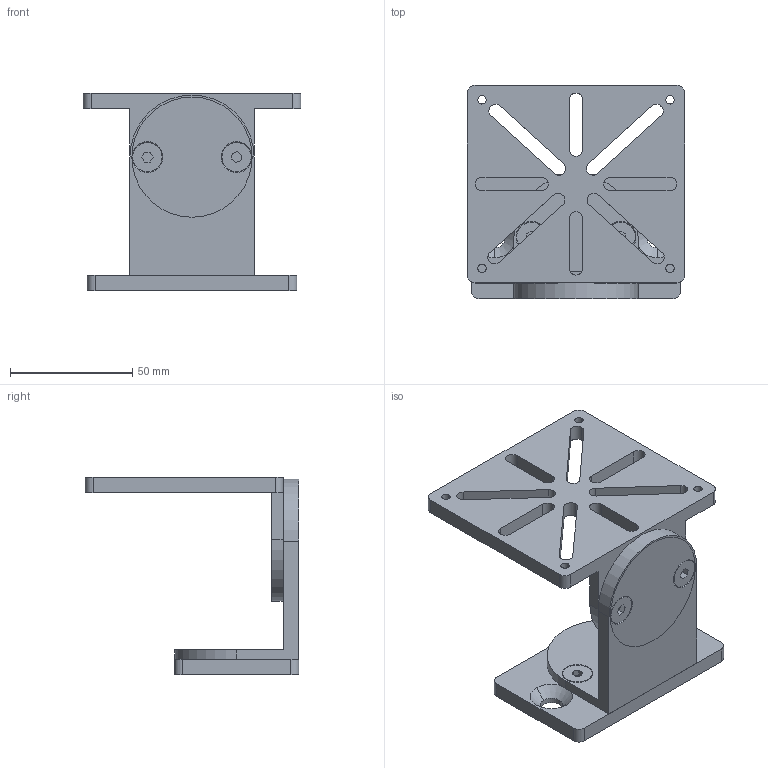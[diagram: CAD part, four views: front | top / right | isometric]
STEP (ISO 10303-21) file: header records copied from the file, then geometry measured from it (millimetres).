
FILE_DESCRIPTION (( 'STEP AP214' ), '1' );
FILE_NAME ('PB75-M5_R4.step', '2018-06-01T12:44:24', ( '' ), ( '' ), 'SwSTEP 2.0', 'SolidWorks 2018', '' );
FILE_SCHEMA (( 'AUTOMOTIVE_DESIGN' ));
Length unit declared in the file: millimetre
Products named in the file (7): PB75-M5_R4; Part8; Retainer Disc; DIN 7991 M6x10; End Effector Bracket_Brick; Retainer Disc 2; Bracket
Assembly tree (9 placements, depth 2):
  PB75-M5_R4
    Retainer Disc
    Bracket
    End Effector Bracket_Brick
    Retainer Disc 2
    DIN 7991 M6x10  x4
    Part8
Bounding box: 89 x 87.35 x 81 mm (x, y, z)
Volume: 98087.6 mm3; surface area: 51613.5 mm2
Topology: 9 solids, 9 shells, 211 faces, 520 edges, 334 vertices
Faces by surface type: cylinder 93, plane 82, cone 28, torus 8
Entity records: 5340 total; most frequent: DIRECTION 920, CARTESIAN_POINT 828, ORIENTED_EDGE 800, EDGE_CURVE 400, AXIS2_PLACEMENT_3D 354, VERTEX_POINT 262, LINE 212, VECTOR 212
